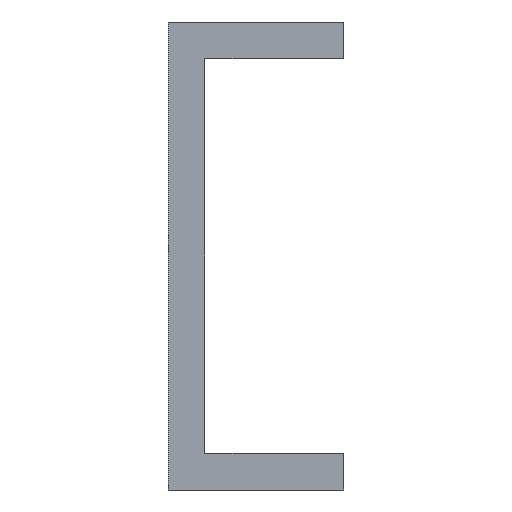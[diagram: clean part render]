
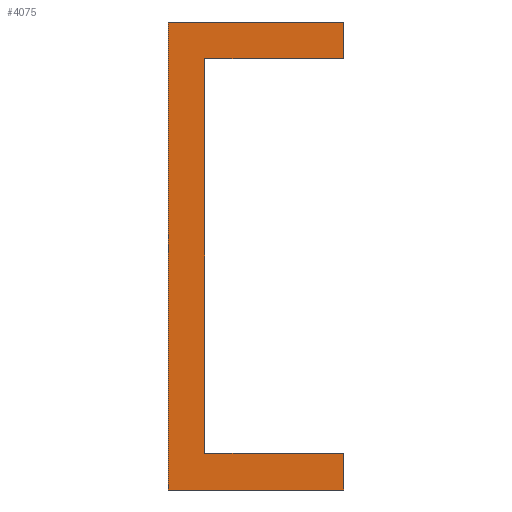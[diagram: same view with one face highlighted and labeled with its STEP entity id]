
A CAD part, front view. The second image highlights one B-rep face of the part: STEP entity #4075.
In plain terms, the highlighted planar face has unit normal (0, -1, 0).
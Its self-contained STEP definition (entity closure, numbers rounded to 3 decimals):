
#22 = EDGE_CURVE ( 'NONE', #8256, #3486, #4466, .T. ) ;
#149 = CARTESIAN_POINT ( 'NONE',  ( 0., 0., 0. ) ) ;
#178 = EDGE_LOOP ( 'NONE', ( #1616, #5065, #1274, #5659, #7547, #1064, #7722, #6987 ) ) ;
#179 = EDGE_CURVE ( 'NONE', #6770, #3791, #4652, .T. ) ;
#232 = VECTOR ( 'NONE', #5817, 1000. ) ;
#342 = VECTOR ( 'NONE', #7802, 1000. ) ;
#436 = VECTOR ( 'NONE', #2088, 1000. ) ;
#645 = CARTESIAN_POINT ( 'NONE',  ( -1.25, 0., 16. ) ) ;
#1022 = EDGE_CURVE ( 'NONE', #5672, #3486, #1652, .T. ) ;
#1055 = VECTOR ( 'NONE', #4766, 1000. ) ;
#1064 = ORIENTED_EDGE ( 'NONE', *, *, #7321, .F. ) ;
#1213 = EDGE_CURVE ( 'NONE', #1360, #3802, #2448, .T. ) ;
#1274 = ORIENTED_EDGE ( 'NONE', *, *, #22, .F. ) ;
#1360 = VERTEX_POINT ( 'NONE', #1806 ) ;
#1379 = DIRECTION ( 'NONE',  ( 1., 0., 0. ) ) ;
#1616 = ORIENTED_EDGE ( 'NONE', *, *, #5268, .T. ) ;
#1652 = LINE ( 'NONE', #6536, #342 ) ;
#1806 = CARTESIAN_POINT ( 'NONE',  ( 10.75, 0., -16. ) ) ;
#1825 = LINE ( 'NONE', #2531, #5404 ) ;
#1960 = VECTOR ( 'NONE', #1379, 1000. ) ;
#2088 = DIRECTION ( 'NONE',  ( 0., 0., 1. ) ) ;
#2448 = LINE ( 'NONE', #4048, #5929 ) ;
#2531 = CARTESIAN_POINT ( 'NONE',  ( -1.25, 0., 0. ) ) ;
#2548 = FACE_OUTER_BOUND ( 'NONE', #178, .T. ) ;
#3296 = PLANE ( 'NONE',  #6469 ) ;
#3446 = CARTESIAN_POINT ( 'NONE',  ( 1.25, 0., 13.5 ) ) ;
#3486 = VERTEX_POINT ( 'NONE', #3446 ) ;
#3791 = VERTEX_POINT ( 'NONE', #5315 ) ;
#3802 = VERTEX_POINT ( 'NONE', #6084 ) ;
#3831 = DIRECTION ( 'NONE',  ( 0., 0., 1. ) ) ;
#4048 = CARTESIAN_POINT ( 'NONE',  ( 0., 0., -16. ) ) ;
#4064 = EDGE_CURVE ( 'NONE', #5403, #1360, #5452, .T. ) ;
#4075 = ADVANCED_FACE ( 'NONE', ( #2548 ), #3296, .F. ) ;
#4301 = CARTESIAN_POINT ( 'NONE',  ( 10.75, 0., 13.5 ) ) ;
#4466 = LINE ( 'NONE', #6642, #1055 ) ;
#4540 = CARTESIAN_POINT ( 'NONE',  ( 1.25, 0., -13.5 ) ) ;
#4576 = CARTESIAN_POINT ( 'NONE',  ( 0., 0., -13.5 ) ) ;
#4652 = LINE ( 'NONE', #7020, #1960 ) ;
#4766 = DIRECTION ( 'NONE',  ( -1., 0., 0. ) ) ;
#4944 = LINE ( 'NONE', #4576, #232 ) ;
#5056 = VECTOR ( 'NONE', #7159, 1000. ) ;
#5065 = ORIENTED_EDGE ( 'NONE', *, *, #1022, .T. ) ;
#5268 = EDGE_CURVE ( 'NONE', #5403, #5672, #4944, .T. ) ;
#5312 = EDGE_CURVE ( 'NONE', #8256, #3791, #6435, .T. ) ;
#5315 = CARTESIAN_POINT ( 'NONE',  ( 10.75, 0., 16. ) ) ;
#5403 = VERTEX_POINT ( 'NONE', #7935 ) ;
#5404 = VECTOR ( 'NONE', #3831, 1000. ) ;
#5452 = LINE ( 'NONE', #6495, #5056 ) ;
#5641 = DIRECTION ( 'NONE',  ( 0., 0., 1. ) ) ;
#5659 = ORIENTED_EDGE ( 'NONE', *, *, #5312, .T. ) ;
#5672 = VERTEX_POINT ( 'NONE', #4540 ) ;
#5817 = DIRECTION ( 'NONE',  ( -1., 0., 0. ) ) ;
#5929 = VECTOR ( 'NONE', #7906, 1000. ) ;
#6084 = CARTESIAN_POINT ( 'NONE',  ( -1.25, 0., -16. ) ) ;
#6435 = LINE ( 'NONE', #7857, #436 ) ;
#6469 = AXIS2_PLACEMENT_3D ( 'NONE', #149, #8001, #5641 ) ;
#6495 = CARTESIAN_POINT ( 'NONE',  ( 10.75, 0., 0. ) ) ;
#6536 = CARTESIAN_POINT ( 'NONE',  ( 1.25, 0., 0. ) ) ;
#6642 = CARTESIAN_POINT ( 'NONE',  ( 0., 0., 13.5 ) ) ;
#6770 = VERTEX_POINT ( 'NONE', #645 ) ;
#6987 = ORIENTED_EDGE ( 'NONE', *, *, #4064, .F. ) ;
#7020 = CARTESIAN_POINT ( 'NONE',  ( 0., 0., 16. ) ) ;
#7159 = DIRECTION ( 'NONE',  ( 0., 0., -1. ) ) ;
#7321 = EDGE_CURVE ( 'NONE', #3802, #6770, #1825, .T. ) ;
#7547 = ORIENTED_EDGE ( 'NONE', *, *, #179, .F. ) ;
#7722 = ORIENTED_EDGE ( 'NONE', *, *, #1213, .F. ) ;
#7802 = DIRECTION ( 'NONE',  ( 0., 0., 1. ) ) ;
#7857 = CARTESIAN_POINT ( 'NONE',  ( 10.75, 0., 0. ) ) ;
#7906 = DIRECTION ( 'NONE',  ( -1., 0., 0. ) ) ;
#7935 = CARTESIAN_POINT ( 'NONE',  ( 10.75, 0., -13.5 ) ) ;
#8001 = DIRECTION ( 'NONE',  ( 0., 1., 0. ) ) ;
#8256 = VERTEX_POINT ( 'NONE', #4301 ) ;
